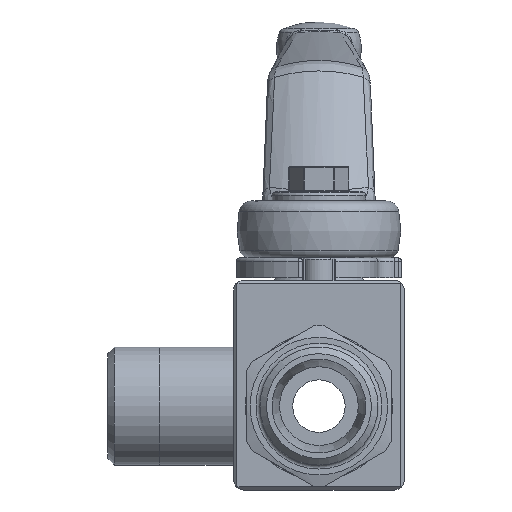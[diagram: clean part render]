
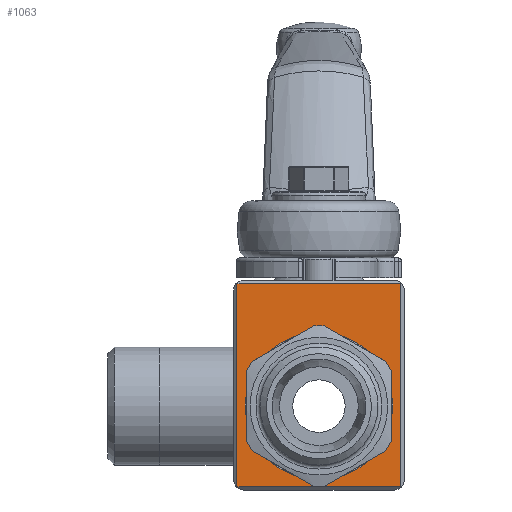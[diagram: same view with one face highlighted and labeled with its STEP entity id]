
A CAD part, front view. The second image highlights one B-rep face of the part: STEP entity #1063.
In plain terms, the highlighted planar face has unit normal (0, -1, 0).
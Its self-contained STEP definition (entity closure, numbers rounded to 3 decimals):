
#1063 = ADVANCED_FACE( '', ( #2206, #2207 ), #2208, .F. );
#2206 = FACE_BOUND( '', #4239, .T. );
#2207 = FACE_OUTER_BOUND( '', #4240, .T. );
#2208 = PLANE( '', #4241 );
#4239 = EDGE_LOOP( '', ( #6960 ) );
#4240 = EDGE_LOOP( '', ( #6961, #6962, #6963, #6964 ) );
#4241 = AXIS2_PLACEMENT_3D( '', #6965, #6966, #6967 );
#6960 = ORIENTED_EDGE( '', *, *, #9138, .T. );
#6961 = ORIENTED_EDGE( '', *, *, #9199, .T. );
#6962 = ORIENTED_EDGE( '', *, *, #8656, .T. );
#6963 = ORIENTED_EDGE( '', *, *, #8405, .T. );
#6964 = ORIENTED_EDGE( '', *, *, #9175, .T. );
#6965 = CARTESIAN_POINT( '', ( -13., -18.1, 19.2 ) );
#6966 = DIRECTION( '', ( 0., 1., 0. ) );
#6967 = DIRECTION( '', ( 0., 0., 1. ) );
#8405 = EDGE_CURVE( '', #9759, #9760, #9761, .T. );
#8656 = EDGE_CURVE( '', #10179, #9759, #10180, .T. );
#9138 = EDGE_CURVE( '', #10876, #10876, #10877, .T. );
#9175 = EDGE_CURVE( '', #9760, #10923, #10924, .T. );
#9199 = EDGE_CURVE( '', #10923, #10179, #10952, .T. );
#9759 = VERTEX_POINT( '', #11691 );
#9760 = VERTEX_POINT( '', #11692 );
#9761 = LINE( '', #11693, #11694 );
#10179 = VERTEX_POINT( '', #12546 );
#10180 = LINE( '', #12547, #12548 );
#10876 = VERTEX_POINT( '', #13878 );
#10877 = CIRCLE( '', #13879, 11.25 );
#10923 = VERTEX_POINT( '', #13969 );
#10924 = LINE( '', #13970, #13971 );
#10952 = LINE( '', #14012, #14013 );
#11691 = CARTESIAN_POINT( '', ( 12.5, -18.1, -12.3 ) );
#11692 = CARTESIAN_POINT( '', ( 12.5, -18.1, 18.7 ) );
#11693 = CARTESIAN_POINT( '', ( 12.5, -18.1, 19.2 ) );
#11694 = VECTOR( '', #14920, 1000. );
#12546 = CARTESIAN_POINT( '', ( -12.5, -18.1, -12.3 ) );
#12547 = CARTESIAN_POINT( '', ( -13., -18.1, -12.3 ) );
#12548 = VECTOR( '', #15262, 1000. );
#13878 = CARTESIAN_POINT( '', ( 0., -18.1, 11.25 ) );
#13879 = AXIS2_PLACEMENT_3D( '', #15912, #15913, #15914 );
#13969 = CARTESIAN_POINT( '', ( -12.5, -18.1, 18.7 ) );
#13970 = CARTESIAN_POINT( '', ( -13., -18.1, 18.7 ) );
#13971 = VECTOR( '', #15960, 1000. );
#14012 = CARTESIAN_POINT( '', ( -12.5, -18.1, 19.2 ) );
#14013 = VECTOR( '', #15986, 1000. );
#14920 = DIRECTION( '', ( 0., 0., 1. ) );
#15262 = DIRECTION( '', ( 1., 0., 0. ) );
#15912 = CARTESIAN_POINT( '', ( 0., -18.1, 0. ) );
#15913 = DIRECTION( '', ( 0., 1., 0. ) );
#15914 = DIRECTION( '', ( 0., 0., 1. ) );
#15960 = DIRECTION( '', ( -1., 0., 0. ) );
#15986 = DIRECTION( '', ( 0., 0., -1. ) );
